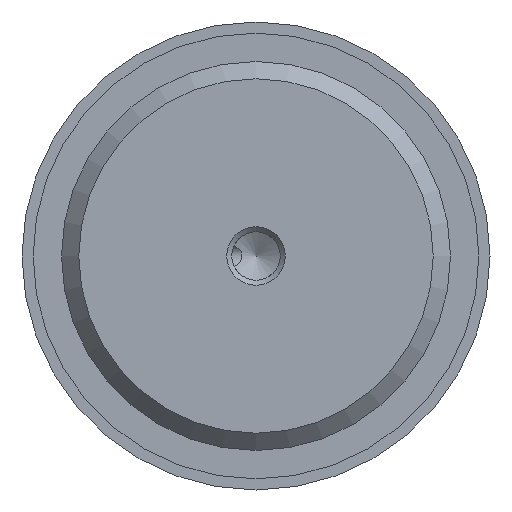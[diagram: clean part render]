
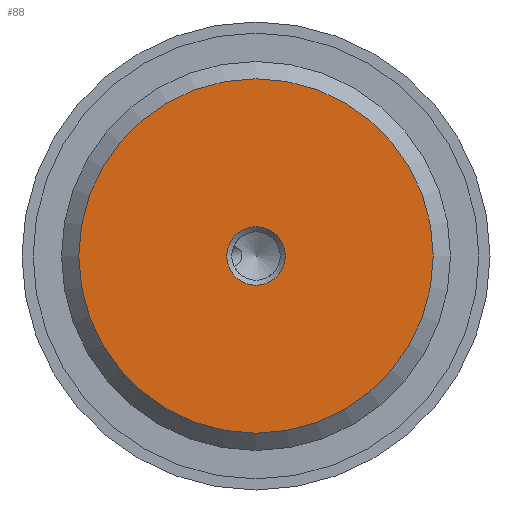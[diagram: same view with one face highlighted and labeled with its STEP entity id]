
A CAD part, front view. The second image highlights one B-rep face of the part: STEP entity #88.
In plain terms, the highlighted planar face has unit normal (0, -1, 0).
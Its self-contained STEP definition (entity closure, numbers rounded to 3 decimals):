
#88 = ADVANCED_FACE( '', ( #136, #137 ), #138, .F. );
#136 = FACE_BOUND( '', #202, .T. );
#137 = FACE_OUTER_BOUND( '', #203, .T. );
#138 = PLANE( '', #204 );
#202 = EDGE_LOOP( '', ( #316 ) );
#203 = EDGE_LOOP( '', ( #317 ) );
#204 = AXIS2_PLACEMENT_3D( '', #318, #319, #320 );
#316 = ORIENTED_EDGE( '', *, *, #434, .F. );
#317 = ORIENTED_EDGE( '', *, *, #435, .T. );
#318 = CARTESIAN_POINT( '', ( 15.146, 0., 0. ) );
#319 = DIRECTION( '', ( 0., 1., 0. ) );
#320 = DIRECTION( '', ( 0., 0., 1. ) );
#434 = EDGE_CURVE( '', #503, #503, #504, .T. );
#435 = EDGE_CURVE( '', #505, #505, #506, .T. );
#503 = VERTEX_POINT( '', #700 );
#504 = CIRCLE( '', #701, 2.5 );
#505 = VERTEX_POINT( '', #702 );
#506 = CIRCLE( '', #703, 15.146 );
#700 = CARTESIAN_POINT( '', ( 2.5, 0., 0. ) );
#701 = AXIS2_PLACEMENT_3D( '', #778, #779, #780 );
#702 = CARTESIAN_POINT( '', ( 0., 0., -15.146 ) );
#703 = AXIS2_PLACEMENT_3D( '', #781, #782, #783 );
#778 = CARTESIAN_POINT( '', ( 0., 0., 0. ) );
#779 = DIRECTION( '', ( 0., -1., 0. ) );
#780 = DIRECTION( '', ( 1., 0., 0. ) );
#781 = CARTESIAN_POINT( '', ( 0., 0., 0. ) );
#782 = DIRECTION( '', ( 0., -1., 0. ) );
#783 = DIRECTION( '', ( 0., 0., -1. ) );
